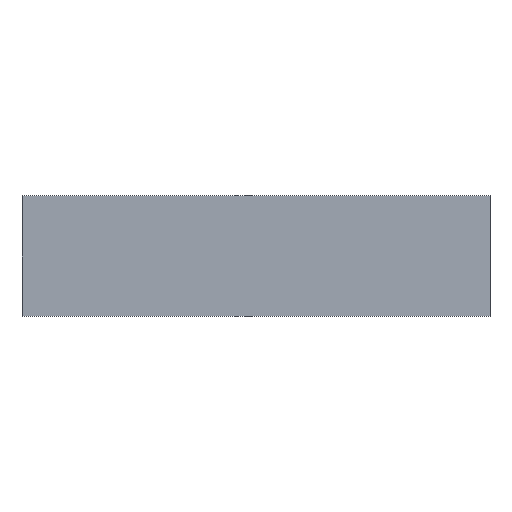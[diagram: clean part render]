
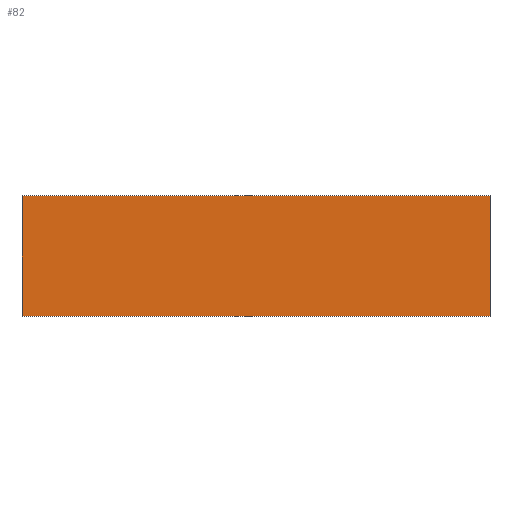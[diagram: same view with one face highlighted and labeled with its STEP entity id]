
A CAD part, top view. The second image highlights one B-rep face of the part: STEP entity #82.
In plain terms, the highlighted planar face has unit normal (0, 0, 1).
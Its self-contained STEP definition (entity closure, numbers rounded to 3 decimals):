
#19=DIRECTION('',(1.0,0.0,0.0));
#35=DIRECTION('',(-1.0,0.0,0.0));
#52=VECTOR('',#19,35.0);
#53=CARTESIAN_POINT('',(-17.5,-24.7,13.3));
#54=LINE('',#53,#52);
#55=VERTEX_POINT('',#53);
#56=CARTESIAN_POINT('',(17.5,-24.7,13.3));
#57=VERTEX_POINT('',#56);
#58=EDGE_CURVE('',#55,#57,#54,.T.);
#59=ORIENTED_EDGE('',*,*,#58,.T.);
#60=DIRECTION('',(0.0,1.0,0.0));
#61=VECTOR('',#60,9.0);
#62=LINE('',#56,#61);
#63=CARTESIAN_POINT('',(17.5,-15.7,13.3));
#64=VERTEX_POINT('',#63);
#65=EDGE_CURVE('',#57,#64,#62,.T.);
#66=ORIENTED_EDGE('',*,*,#65,.T.);
#67=VECTOR('',#35,35.0);
#68=LINE('',#63,#67);
#69=CARTESIAN_POINT('',(-17.5,-15.7,13.3));
#70=VERTEX_POINT('',#69);
#71=EDGE_CURVE('',#64,#70,#68,.T.);
#72=ORIENTED_EDGE('',*,*,#71,.T.);
#73=VECTOR('',#60,9.0);
#74=LINE('',#53,#73);
#75=EDGE_CURVE('',#55,#70,#74,.T.);
#76=ORIENTED_EDGE('',*,*,#75,.F.);
#77=EDGE_LOOP('',(#59,#66,#72,#76));
#78=FACE_OUTER_BOUND('',#77,.T.);
#79=DIRECTION('',(0.0,0.0,1.0));
#80=AXIS2_PLACEMENT_3D('',#53,#79,#19);
#81=PLANE('',#80);
#82=ADVANCED_FACE('',(#78),#81,.T.);
